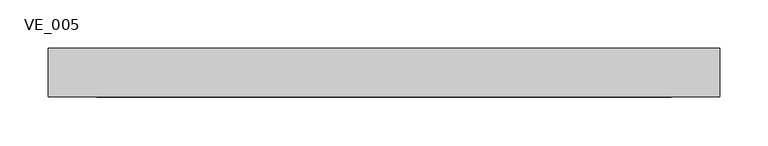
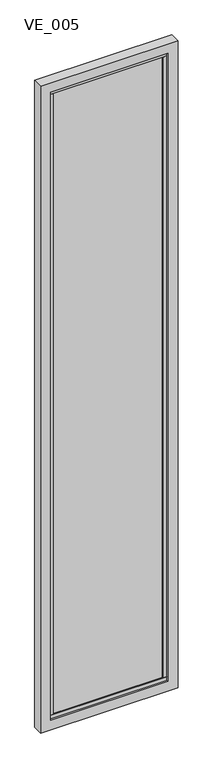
"""IFC4 building model written with IfcOpenShell, lengths in millimetres: plate geometry, TRP_CP_ARC_PF_RE : VE_005."""

import ifcopenshell
import ifcopenshell.guid

model = None  # the IFC model being written
_history = None  # IfcOwnerHistory: only IFC2X3 demands one
_inside = {}  # id of a spatial element -> (the spatial element, [elements in it])
_under = {}  # id of a project, library or spatial element -> (it, [spatial elements below it])
_declared = {}  # id of a project -> (the project, [libraries it declares])
_typed = {}  # id of a type object -> (the type object, [elements of that type])
_made_of = {}  # id of a material, layer set ... -> (it, [elements and type objects made of it])


def new_model(schema):
    """Start an empty IFC model of exactly this schema.

    Asked for "IFC4X3", IfcOpenShell would pick the latest addendum, in which some entities
    have other attributes; the version numbers below select the first issue.
    IFC2X3 requires an IfcOwnerHistory on every rooted entity: one is made here for all.
    """
    global model, _history
    if schema == "IFC4X3":
        model = ifcopenshell.file(schema_version=(4, 3, 0, 0))
    else:
        model = ifcopenshell.file(schema=schema)
    _inside.clear()
    _under.clear()
    _declared.clear()
    _typed.clear()
    _made_of.clear()
    _history = None
    if model.schema == "IFC2X3":
        org = make("IfcOrganization", Name="unknown")
        user = make(
            "IfcPersonAndOrganization",
            ThePerson=make("IfcPerson", FamilyName="unknown"),
            TheOrganization=org,
        )
        app = make(
            "IfcApplication",
            ApplicationDeveloper=org,
            Version="unknown",
            ApplicationFullName="unknown",
            ApplicationIdentifier="unknown",
        )
        _history = make(
            "IfcOwnerHistory",
            OwningUser=user,
            OwningApplication=app,
            ChangeAction="ADDED",
            CreationDate=0,
        )
    return model


def make(cls, **values):
    """One entity of the class cls with the attributes given. An attribute that is None is left unset."""
    return model.create_entity(
        cls, **{name: value for name, value in values.items() if value is not None}
    )


def rooted(cls, **values):
    """An entity with a GlobalId (a new one), such as an element, a storey or a relation."""
    return make(cls, GlobalId=ifcopenshell.guid.new(), OwnerHistory=_history, **values)


def si_unit(unit_type, name, prefix=None):
    """IfcSIUnit, for example si_unit("LENGTHUNIT", "METRE", prefix="MILLI")."""
    return make("IfcSIUnit", UnitType=unit_type, Prefix=prefix, Name=name)


def assignment(units):
    """IfcUnitAssignment: the units of a project."""
    return None if units is None else make("IfcUnitAssignment", Units=units)


def point(xyz):
    """IfcCartesianPoint."""
    return None if xyz is None else make("IfcCartesianPoint", Coordinates=xyz)


def direction(xyz):
    """IfcDirection."""
    return None if xyz is None else make("IfcDirection", DirectionRatios=xyz)


def frame(location, z_axis=None, x_axis=None):
    """IfcAxis2Placement3D, a coordinate frame: its origin and axes. An axis left out is left unset."""
    return make(
        "IfcAxis2Placement3D",
        Location=point(location),
        Axis=direction(z_axis),
        RefDirection=direction(x_axis),
    )


def origin():
    """The frame at (0, 0, 0) with its axes left unset."""
    return frame((0.0, 0.0, 0.0))


def place(relative_to, where):
    """IfcLocalPlacement: puts the frame where relative to a parent placement (None: the world)."""
    return make(
        "IfcLocalPlacement", PlacementRelTo=relative_to, RelativePlacement=where
    )


def context(
    kind, dimensions, precision=None, world=None, true_north=None, identifier=None
):
    """IfcGeometricRepresentationContext, for example the 3D "Model" context."""
    return make(
        "IfcGeometricRepresentationContext",
        ContextIdentifier=identifier,
        ContextType=kind,
        CoordinateSpaceDimension=dimensions,
        Precision=precision,
        WorldCoordinateSystem=world,
        TrueNorth=true_north,
    )


def project(units=None, contexts=None):
    """IfcProject with its units and contexts."""
    return rooted(
        "IfcProject",
        Name="project",
        RepresentationContexts=contexts,
        UnitsInContext=assignment(units),
    )


def spatial(cls, under=None, at=None, **own):
    """A site, building, storey or space (cls), placed at a placement, below another one or the project."""
    s = rooted(cls, ObjectPlacement=at, **own)
    if under is not None:
        _under.setdefault(under.id(), (under, []))[1].append(s)
    return s


def polyline(points):
    """IfcPolyline through the points."""
    return make("IfcPolyline", Points=[point(p) for p in points])


def outline(outer, holes=None, kind="AREA"):
    """IfcArbitraryClosedProfileDef: a profile drawn as a closed curve; with holes, ...WithVoids."""
    if holes is None:
        return make("IfcArbitraryClosedProfileDef", ProfileType=kind, OuterCurve=outer)
    return make(
        "IfcArbitraryProfileDefWithVoids",
        ProfileType=kind,
        OuterCurve=outer,
        InnerCurves=holes,
    )


def extrude(swept, where, along, depth):
    """IfcExtrudedAreaSolid: the profile swept, set in the frame where, extruded along a direction by depth."""
    return make(
        "IfcExtrudedAreaSolid",
        SweptArea=swept,
        Position=where,
        ExtrudedDirection=direction(along),
        Depth=depth,
    )


def shape(context_of_items, identifier, shape_type, items):
    """IfcShapeRepresentation: the items that make up one representation, for example the "Body"."""
    return make(
        "IfcShapeRepresentation",
        ContextOfItems=context_of_items,
        RepresentationIdentifier=identifier,
        RepresentationType=shape_type,
        Items=items,
    )


def source(mapping_origin, context_of_items, identifier, shape_type, items):
    """IfcRepresentationMap: a shape defined once, which mapped items show again and again."""
    return make(
        "IfcRepresentationMap",
        MappingOrigin=mapping_origin,
        MappedRepresentation=shape(context_of_items, identifier, shape_type, items),
    )


def transform(
    local_origin,
    x_axis=None,
    y_axis=None,
    z_axis=None,
    scale=None,
    scale2=None,
    scale3=None,
    uniform=True,
):
    """IfcCartesianTransformationOperator3D, or its non-uniform kind. x_axis, y_axis, z_axis: its Axis1, 2, 3."""
    if uniform:
        return make(
            "IfcCartesianTransformationOperator3D",
            Axis1=direction(x_axis),
            Axis2=direction(y_axis),
            LocalOrigin=point(local_origin),
            Scale=scale,
            Axis3=direction(z_axis),
        )
    return make(
        "IfcCartesianTransformationOperator3DnonUniform",
        Axis1=direction(x_axis),
        Axis2=direction(y_axis),
        LocalOrigin=point(local_origin),
        Scale=scale,
        Axis3=direction(z_axis),
        Scale2=scale2,
        Scale3=scale3,
    )


def mapped(mapping_source, mapping_target):
    """IfcMappedItem: shows the shape of a source again, moved by a transform."""
    return make(
        "IfcMappedItem", MappingSource=mapping_source, MappingTarget=mapping_target
    )


def made_of(thing, what):
    """Note that an element or type object is made of a material, layer set ...; save() writes the relation."""
    if what is not None:
        _made_of.setdefault(what.id(), (what, []))[1].append(thing)
    return thing


def element(
    cls,
    number,
    at=None,
    inside=None,
    cuts=None,
    type_object=None,
    material=None,
    context=None,
    identifier="Body",
    shape_type=None,
    held_by="IfcProductDefinitionShape",
    body=None,
    shapes=None,
    **own,
):
    """One element of the class cls, such as IfcWall. Its Tag is "e" and its number.

    at: its placement. inside: the storey or other place that contains it. cuts: it is an
    opening in that element (IfcRelVoidsElement). A single representation is given by context,
    identifier, shape_type and body (its items); several are given by shapes. held_by: the class
    of the entity that holds the representations. save() writes the other relations.
    """
    e = rooted(cls, Tag="e%d" % number, ObjectPlacement=at, **own)
    if body is not None:
        shapes = [shape(context, identifier, shape_type, body)]
    if shapes is not None:
        e.Representation = make(held_by, Representations=shapes)
    if inside is not None:
        _inside.setdefault(inside.id(), (inside, []))[1].append(e)
    if cuts is not None:
        rooted(
            "IfcRelVoidsElement", RelatingBuildingElement=cuts, RelatedOpeningElement=e
        )
    if type_object is not None:
        _typed.setdefault(type_object.id(), (type_object, []))[1].append(e)
    return made_of(e, material)


def aggregate(whole, parts):
    """IfcRelAggregates: a whole, such as a stair, and the parts it consists of."""
    return rooted("IfcRelAggregates", RelatingObject=whole, RelatedObjects=parts)


def save(model, path):
    """Write the relations noted so far, then the file.

    IfcRelAggregates (storeys below a building ...), IfcRelContainedInSpatialStructure (elements
    in a storey), IfcRelDefinesByType, IfcRelAssociatesMaterial and IfcRelDeclares: one each for
    every whole, place, type object, material and project.
    """
    for whole, parts in _under.values():
        aggregate(whole, parts)
    for where, things in _inside.values():
        rooted(
            "IfcRelContainedInSpatialStructure",
            RelatedElements=things,
            RelatingStructure=where,
        )
    for kind, things in _typed.values():
        rooted("IfcRelDefinesByType", RelatedObjects=things, RelatingType=kind)
    for what, things in _made_of.values():
        rooted("IfcRelAssociatesMaterial", RelatedObjects=things, RelatingMaterial=what)
    for by, libraries in _declared.values():
        rooted("IfcRelDeclares", RelatingContext=by, RelatedDefinitions=libraries)
    model.write(path)


def ve_005_79e83a76(model_context):
    return source(origin(), model_context, "Body", "SweptSolid", [
        extrude(outline(polyline([(276.9621663, -10.0), (-276.9621663, -10.0), (-276.9621663, 10.0), (276.9621663, 10.0), (276.9621663, -10.0)])), frame((0.0, 0.0, 70.0), z_axis=(0.0, 0.0, 1.0), x_axis=(1.0, 0.0, 0.0)), (0.0, 0.0, 1.0), 3310.0),
        extrude(outline(polyline([(296.9621663, -15.0), (276.9621663, -15.0), (276.9621663, 15.0), (296.9621663, 15.0), (296.9621663, -15.0)])), frame((0.0, 0.0, 70.0), z_axis=(0.0, 0.0, 1.0), x_axis=(1.0, 0.0, 0.0)), (0.0, 0.0, 1.0), 3310.0),
        extrude(outline(polyline([(-276.9621663, -15.0), (-296.9621663, -15.0), (-296.9621663, 15.0), (-276.9621663, 15.0), (-276.9621663, -15.0)])), frame((0.0, 0.0, 70.0), z_axis=(0.0, 0.0, 1.0), x_axis=(1.0, 0.0, 0.0)), (0.0, 0.0, 1.0), 3310.0),
        extrude(outline(polyline([(296.9621663, -15.0), (-296.9621663, -15.0), (-296.9621663, 15.0), (296.9621663, 15.0), (296.9621663, -15.0)])), frame((0.0, 0.0, 50.0), z_axis=(0.0, 0.0, 1.0), x_axis=(1.0, 0.0, 0.0)), (0.0, 0.0, 1.0), 20.0),
        extrude(outline(polyline([(296.9621663, -15.0), (-296.9621663, -15.0), (-296.9621663, 15.0), (296.9621663, 15.0), (296.9621663, -15.0)])), frame((0.0, 0.0, 3380.0), z_axis=(0.0, 0.0, 1.0), x_axis=(1.0, 0.0, 0.0)), (0.0, 0.0, 1.0), 20.0),
        extrude(outline(polyline([(3450.0, 346.9621663), (3450.0, -346.9621663), (0.0, -346.9621663), (0.0, 346.9621663), (3450.0, 346.9621663)]), holes=[polyline([(50.0, 296.9621663), (50.0, -296.9621663), (3400.0, -296.9621663), (3400.0, 296.9621663), (50.0, 296.9621663)])]), frame((0.0, -25.0, 0.0), z_axis=(0.0, 1.0, 0.0), x_axis=(0.0, 0.0, 1.0)), (0.0, 0.0, 1.0), 50.0),
    ])


if __name__ == "__main__":
    model = new_model("IFC4")
    model_context = context("Model", 3, world=origin())
    ifc_project = project(units=[si_unit("LENGTHUNIT", "METRE", prefix="MILLI")], contexts=[model_context])
    site = spatial("IfcSite", under=ifc_project)
    building = spatial("IfcBuilding", under=site)
    placement = place(None, origin())
    ve_005_shape = ve_005_79e83a76(model_context)
    element("IfcPlate", 1, ObjectType="TRP_CP_ARC_PF_RE : VE_005", at=placement, inside=building, context=model_context, shape_type="MappedRepresentation", body=[
        mapped(ve_005_shape, transform((0.0, 0.0, 0.0), x_axis=(1.0, 0.0, 0.0), y_axis=(0.0, 1.0, 0.0), z_axis=(0.0, 0.0, 1.0))),
    ])
    save(model, "model.ifc")
